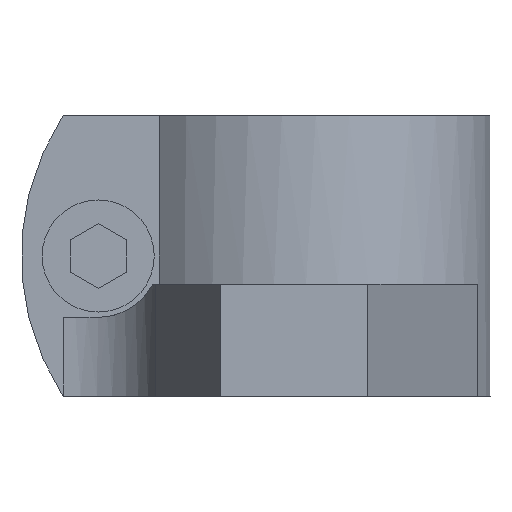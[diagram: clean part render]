
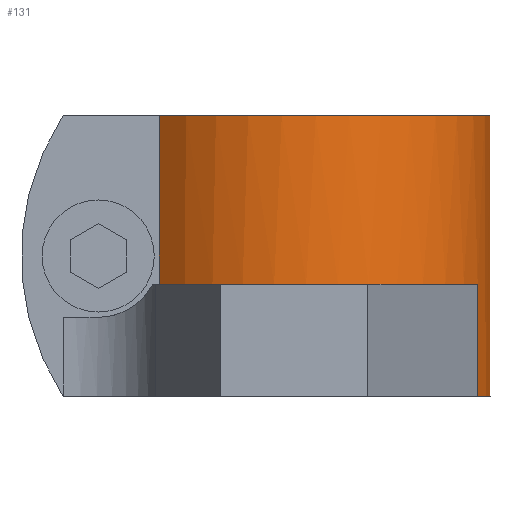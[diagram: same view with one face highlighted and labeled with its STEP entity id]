
A CAD part, left-side view. The second image highlights one B-rep face of the part: STEP entity #131.
In plain terms, the highlighted cylindrical face has radius 28 mm (diameter 56 mm), a partial arc.
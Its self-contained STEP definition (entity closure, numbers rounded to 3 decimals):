
#131=ADVANCED_FACE('',(#186),#187,.T.);
#186=FACE_OUTER_BOUND('',#291,.T.);
#187=CYLINDRICAL_SURFACE('',#292,28.0);
#291=EDGE_LOOP('',(#436,#437,#438,#439,#440,#441,#442,#443));
#292=AXIS2_PLACEMENT_3D('',#444,#445,#446);
#436=ORIENTED_EDGE('',*,*,#751,.F.);
#437=ORIENTED_EDGE('',*,*,#752,.F.);
#438=ORIENTED_EDGE('',*,*,#753,.T.);
#439=ORIENTED_EDGE('',*,*,#749,.T.);
#440=ORIENTED_EDGE('',*,*,#754,.F.);
#441=ORIENTED_EDGE('',*,*,#755,.F.);
#442=ORIENTED_EDGE('',*,*,#756,.F.);
#443=ORIENTED_EDGE('',*,*,#757,.T.);
#444=CARTESIAN_POINT('',(0.0,0.,-190.0));
#445=DIRECTION('',(-0.0,-0.0,-1.0));
#446=DIRECTION('',(-0.357,0.934,0.0));
#749=EDGE_CURVE('',#878,#876,#879,.T.);
#751=EDGE_CURVE('',#881,#882,#883,.T.);
#752=EDGE_CURVE('',#884,#881,#885,.T.);
#753=EDGE_CURVE('',#884,#878,#886,.T.);
#754=EDGE_CURVE('',#887,#876,#888,.T.);
#755=EDGE_CURVE('',#889,#887,#890,.T.);
#756=EDGE_CURVE('',#891,#889,#892,.T.);
#757=EDGE_CURVE('',#891,#882,#893,.T.);
#876=VERTEX_POINT('',#1107);
#878=VERTEX_POINT('',#1110);
#879=LINE('',#1111,#1112);
#881=VERTEX_POINT('',#1115);
#882=VERTEX_POINT('',#1116);
#883=CIRCLE('',#1117,28.0);
#884=VERTEX_POINT('',#1118);
#885=LINE('',#1119,#1120);
#886=CIRCLE('',#1121,28.0);
#887=VERTEX_POINT('',#1122);
#888=CIRCLE('',#1123,28.0);
#889=VERTEX_POINT('',#1124);
#890=LINE('',#1125,#1126);
#891=VERTEX_POINT('',#1127);
#892=CIRCLE('',#1128,28.0);
#893=LINE('',#1129,#1130);
#1107=CARTESIAN_POINT('',(9.987,-26.158,-24.0));
#1110=CARTESIAN_POINT('',(9.987,-26.158,-40.0));
#1111=CARTESIAN_POINT('',(9.987,-26.158,-190.0));
#1112=VECTOR('',#1373,1.0);
#1115=CARTESIAN_POINT('',(-9.987,-26.158,-24.0));
#1116=CARTESIAN_POINT('',(-20.333,19.25,-24.0));
#1117=AXIS2_PLACEMENT_3D('',#1375,#1376,#1377);
#1118=CARTESIAN_POINT('',(-9.987,-26.158,-40.0));
#1119=CARTESIAN_POINT('',(-9.987,-26.158,-190.0));
#1120=VECTOR('',#1378,1.0);
#1121=AXIS2_PLACEMENT_3D('',#1379,#1380,#1381);
#1122=CARTESIAN_POINT('',(19.833,19.765,-24.0));
#1123=AXIS2_PLACEMENT_3D('',#1382,#1383,#1384);
#1124=CARTESIAN_POINT('',(19.833,19.765,0.0));
#1125=CARTESIAN_POINT('',(19.833,19.765,0.0));
#1126=VECTOR('',#1385,1.0);
#1127=CARTESIAN_POINT('',(-20.333,19.25,0.0));
#1128=AXIS2_PLACEMENT_3D('',#1386,#1387,#1388);
#1129=CARTESIAN_POINT('',(-20.333,19.25,0.0));
#1130=VECTOR('',#1389,1.0);
#1373=DIRECTION('',(0.0,0.0,1.0));
#1375=CARTESIAN_POINT('',(0.,0.,-24.0));
#1376=DIRECTION('',(0.,0.0,-1.0));
#1377=DIRECTION('',(1.0,0.,0.));
#1378=DIRECTION('',(0.0,0.0,1.0));
#1379=CARTESIAN_POINT('',(0.0,0.,-40.0));
#1380=DIRECTION('',(0.,0.0,1.0));
#1381=DIRECTION('',(1.0,0.0,0.));
#1382=CARTESIAN_POINT('',(0.,0.,-24.0));
#1383=DIRECTION('',(0.,0.0,-1.0));
#1384=DIRECTION('',(1.0,0.,0.));
#1385=DIRECTION('',(0.,0.,-1.0));
#1386=CARTESIAN_POINT('',(0.0,0.,0.0));
#1387=DIRECTION('',(0.0,0.0,1.0));
#1388=DIRECTION('',(1.0,0.0,0.0));
#1389=DIRECTION('',(0.,0.,-1.0));
